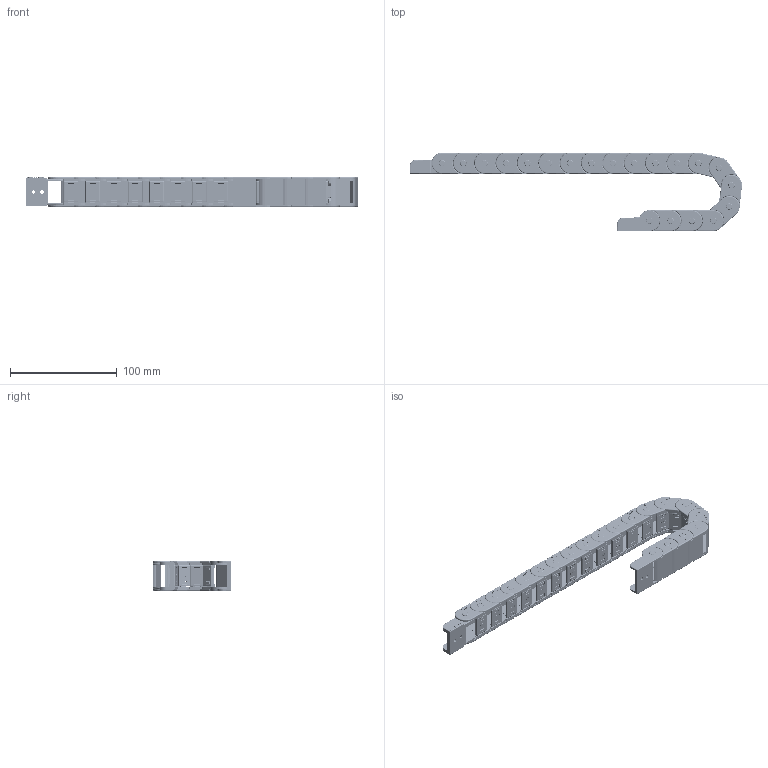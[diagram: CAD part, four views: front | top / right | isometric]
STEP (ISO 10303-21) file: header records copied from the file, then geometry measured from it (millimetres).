
FILE_DESCRIPTION (( 'STEP AP203' ), '1' );
FILE_NAME ('FW5-15BF-1-20N-3Dͼ.STEP', '2016-03-09T04:59:54', ( 'Sky123.Org' ), ( 'Sky123.Org' ), 'SwSTEP 2.0', 'SolidWorks 2014', '' );
FILE_SCHEMA (( 'CONFIG_CONTROL_DESIGN' ));
Length unit declared in the file: millimetre
Products named in the file (6): FW-15BF-1-20N-ZT3D; FW15X20-DP3D; FW5-15BFX20-1; FW15X20-XJT-N3D; FW15X20-XJT-W3D; FW5-15BF-1-20N-3Dͼ
Assembly tree (23 placements, depth 3):
  FW5-15BF-1-20N-3Dͼ
    FW5-15BFX20-1  x19
      FW-15BF-1-20N-ZT3D
      FW15X20-DP3D
    FW15X20-XJT-N3D
    FW15X20-XJT-W3D
Bounding box: 310.9 x 73.36 x 29 mm (x, y, z)
Volume: 91438.6 mm3; surface area: 104767.7 mm2
Topology: 40 solids, 40 shells, 7610 faces, 19911 edges, 13042 vertices
Faces by surface type: plane 3936, bspline 2053, cylinder 1211, torus 398, cone 8, sphere 4
Entity records: 36775 total; most frequent: CARTESIAN_POINT 17019, ORIENTED_EDGE 4206, DIRECTION 3179, EDGE_CURVE 2103, VERTEX_POINT 1376, VECTOR 1371, LINE 1371, AXIS2_PLACEMENT_3D 904
